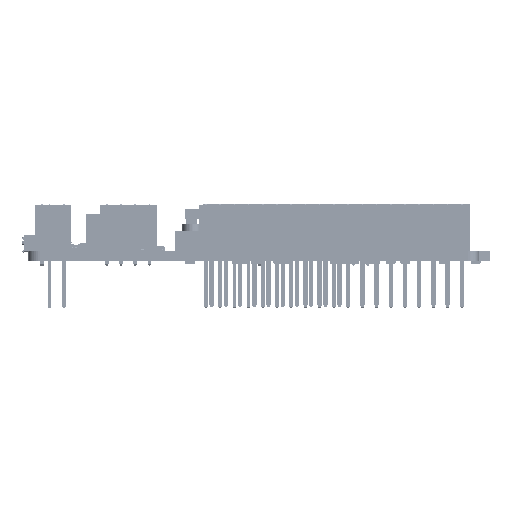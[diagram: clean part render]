
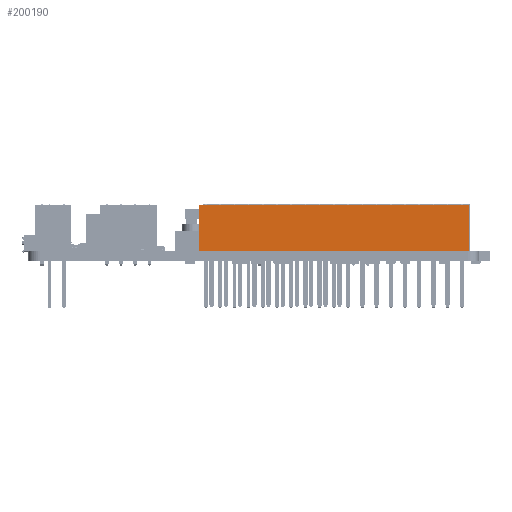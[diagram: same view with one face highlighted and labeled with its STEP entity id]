
A CAD part, left-side view. The second image highlights one B-rep face of the part: STEP entity #200190.
In plain terms, the highlighted planar face has unit normal (-1, 0, 0).
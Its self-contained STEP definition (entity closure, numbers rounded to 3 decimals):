
#200092 = EDGE_CURVE('',#200093,#200095,#200097,.T.);
#200093 = VERTEX_POINT('',#200094);
#200094 = CARTESIAN_POINT('',(-2.545,24.132,0.));
#200095 = VERTEX_POINT('',#200096);
#200096 = CARTESIAN_POINT('',(-2.545,24.132,8.38));
#200097 = LINE('',#200098,#200099);
#200098 = CARTESIAN_POINT('',(-2.545,24.132,0.));
#200099 = VECTOR('',#200100,1.);
#200100 = DIRECTION('',(0.,0.,1.));
#200165 = VERTEX_POINT('',#200166);
#200166 = CARTESIAN_POINT('',(-2.545,-24.132,8.38));
#200172 = EDGE_CURVE('',#200173,#200165,#200175,.T.);
#200173 = VERTEX_POINT('',#200174);
#200174 = CARTESIAN_POINT('',(-2.545,-24.132,0.));
#200175 = LINE('',#200176,#200177);
#200176 = CARTESIAN_POINT('',(-2.545,-24.132,0.));
#200177 = VECTOR('',#200178,1.);
#200178 = DIRECTION('',(0.,0.,1.));
#200190 = ADVANCED_FACE('',(#200191),#200207,.T.);
#200191 = FACE_BOUND('',#200192,.T.);
#200192 = EDGE_LOOP('',(#200193,#200194,#200200,#200201));
#200193 = ORIENTED_EDGE('',*,*,#200172,.T.);
#200194 = ORIENTED_EDGE('',*,*,#200195,.T.);
#200195 = EDGE_CURVE('',#200165,#200095,#200196,.T.);
#200196 = LINE('',#200197,#200198);
#200197 = CARTESIAN_POINT('',(-2.545,-24.132,8.38));
#200198 = VECTOR('',#200199,1.);
#200199 = DIRECTION('',(0.,1.,0.));
#200200 = ORIENTED_EDGE('',*,*,#200092,.F.);
#200201 = ORIENTED_EDGE('',*,*,#200202,.F.);
#200202 = EDGE_CURVE('',#200173,#200093,#200203,.T.);
#200203 = LINE('',#200204,#200205);
#200204 = CARTESIAN_POINT('',(-2.545,-24.132,0.));
#200205 = VECTOR('',#200206,1.);
#200206 = DIRECTION('',(0.,1.,0.));
#200207 = PLANE('',#200208);
#200208 = AXIS2_PLACEMENT_3D('',#200209,#200210,#200211);
#200209 = CARTESIAN_POINT('',(-2.545,-24.132,0.));
#200210 = DIRECTION('',(-1.,0.,0.));
#200211 = DIRECTION('',(0.,1.,0.));
